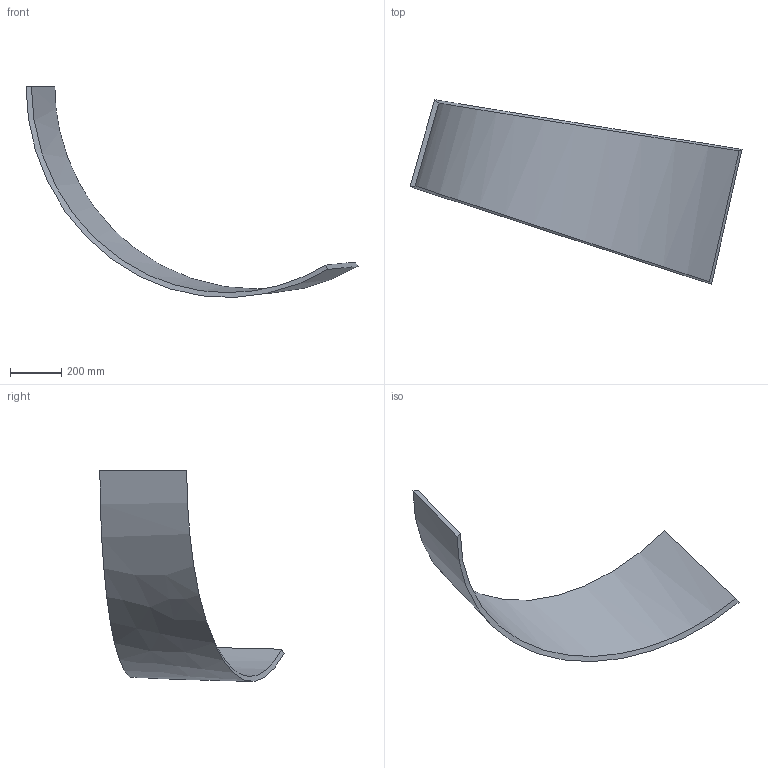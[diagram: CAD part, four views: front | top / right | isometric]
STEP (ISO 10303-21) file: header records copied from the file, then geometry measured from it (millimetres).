
FILE_DESCRIPTION (( 'STEP AP214' ), '1' );
FILE_NAME ('P5.2.STEP', '2025-01-09T19:43:27', ( '' ), ( '' ), 'SwSTEP 2.0', 'SolidWorks 2024', '' );
FILE_SCHEMA (( 'AUTOMOTIVE_DESIGN' ));
Length unit declared in the file: inch
Products named in the file (1): P5.2
Bounding box: 1289.67 x 715.79 x 819.43 mm (x, y, z)
Volume: 13302966.3 mm3; surface area: 1483263.8 mm2
Topology: 1 solids, 1 shells, 6 faces, 12 edges, 8 vertices
Faces by surface type: bspline 6
Entity records: 1604 total; most frequent: CARTESIAN_POINT 1490, ORIENTED_EDGE 24, EDGE_CURVE 12, B_SPLINE_CURVE_WITH_KNOTS 12, VERTEX_POINT 8, EDGE_LOOP 6, ADVANCED_FACE 6, FACE_OUTER_BOUND 6
